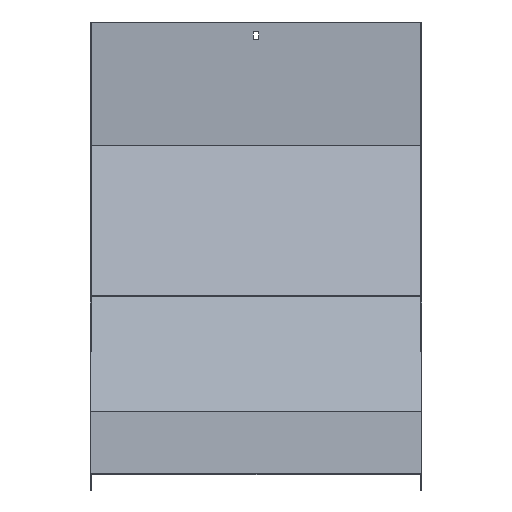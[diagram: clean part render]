
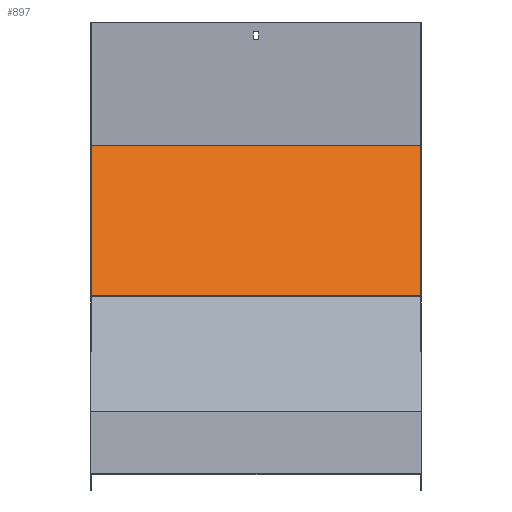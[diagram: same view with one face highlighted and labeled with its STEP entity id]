
A CAD part, top view. The second image highlights one B-rep face of the part: STEP entity #897.
In plain terms, the highlighted planar face has unit normal (0, 0.383, 0.924).
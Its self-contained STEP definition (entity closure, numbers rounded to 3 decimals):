
#13 = CARTESIAN_POINT ( 'NONE',  ( 201.5, 400.116, -549.916 ) ) ;
#15 = EDGE_LOOP ( 'NONE', ( #1072, #699, #414, #529 ) ) ;
#55 = LINE ( 'NONE', #1092, #671 ) ;
#61 = DIRECTION ( 'NONE',  ( 0., -0.924, 0.383 ) ) ;
#84 = LINE ( 'NONE', #893, #525 ) ;
#141 = FACE_OUTER_BOUND ( 'NONE', #15, .T. ) ;
#142 = VERTEX_POINT ( 'NONE', #276 ) ;
#186 = VERTEX_POINT ( 'NONE', #13 ) ;
#276 = CARTESIAN_POINT ( 'NONE',  ( 201.5, 216.541, -473.877 ) ) ;
#308 = LINE ( 'NONE', #676, #858 ) ;
#363 = VECTOR ( 'NONE', #913, 1000. ) ;
#414 = ORIENTED_EDGE ( 'NONE', *, *, #770, .T. ) ;
#495 = PLANE ( 'NONE',  #723 ) ;
#525 = VECTOR ( 'NONE', #882, 1000. ) ;
#529 = ORIENTED_EDGE ( 'NONE', *, *, #794, .T. ) ;
#620 = VERTEX_POINT ( 'NONE', #656 ) ;
#646 = CARTESIAN_POINT ( 'NONE',  ( 201.5, 216.541, -473.877 ) ) ;
#656 = CARTESIAN_POINT ( 'NONE',  ( -201.5, 216.541, -473.877 ) ) ;
#671 = VECTOR ( 'NONE', #1081, 1000. ) ;
#672 = EDGE_CURVE ( 'NONE', #620, #977, #84, .T. ) ;
#676 = CARTESIAN_POINT ( 'NONE',  ( 201.5, 216.541, -473.877 ) ) ;
#699 = ORIENTED_EDGE ( 'NONE', *, *, #1091, .F. ) ;
#723 = AXIS2_PLACEMENT_3D ( 'NONE', #847, #1071, #61 ) ;
#770 = EDGE_CURVE ( 'NONE', #142, #186, #905, .T. ) ;
#794 = EDGE_CURVE ( 'NONE', #186, #977, #55, .T. ) ;
#847 = CARTESIAN_POINT ( 'NONE',  ( 201.5, 216.541, -473.877 ) ) ;
#858 = VECTOR ( 'NONE', #1016, 1000. ) ;
#882 = DIRECTION ( 'NONE',  ( 0., 0.924, -0.383 ) ) ;
#893 = CARTESIAN_POINT ( 'NONE',  ( -201.5, 216.541, -473.877 ) ) ;
#897 = ADVANCED_FACE ( 'NONE', ( #141 ), #495, .T. ) ;
#905 = LINE ( 'NONE', #646, #363 ) ;
#913 = DIRECTION ( 'NONE',  ( 0., 0.924, -0.383 ) ) ;
#967 = CARTESIAN_POINT ( 'NONE',  ( -201.5, 400.116, -549.916 ) ) ;
#977 = VERTEX_POINT ( 'NONE', #967 ) ;
#1016 = DIRECTION ( 'NONE',  ( -1., 0., 0. ) ) ;
#1071 = DIRECTION ( 'NONE',  ( 0., 0.383, 0.924 ) ) ;
#1072 = ORIENTED_EDGE ( 'NONE', *, *, #672, .F. ) ;
#1081 = DIRECTION ( 'NONE',  ( -1., 0., 0. ) ) ;
#1091 = EDGE_CURVE ( 'NONE', #142, #620, #308, .T. ) ;
#1092 = CARTESIAN_POINT ( 'NONE',  ( 201.5, 400.116, -549.916 ) ) ;
